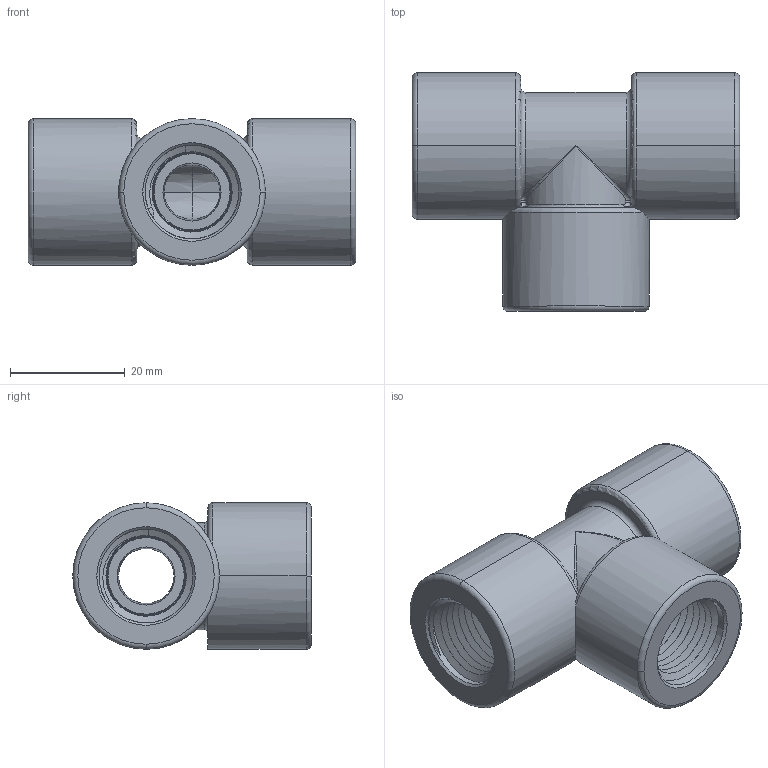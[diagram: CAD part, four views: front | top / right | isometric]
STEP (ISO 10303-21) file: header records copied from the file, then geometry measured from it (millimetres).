
FILE_DESCRIPTION(/* description */ ('Alibre Inc.'),/* implementation_level */ '2;1');
FILE_NAME(/* name */ 'export0',/* time_stamp */ '2019-09-16T09:46:32-04:00',/* author */ (''),/* organization */ (''),/* preprocessor_version */ 'ST-DEVELOPER v17',/* originating_system */ 'Alibre',/* authorisation */ '');
FILE_SCHEMA (('CONFIG_CONTROL_DESIGN'));
Length unit declared in the file: inch
Products named in the file (1): 200-62464-1000C
Bounding box: 57 x 41.5 x 25.5 mm (x, y, z)
Volume: 23771.7 mm3; surface area: 11774.9 mm2
Topology: 1 solids, 1 shells, 171 faces, 454 edges, 279 vertices
Faces by surface type: cone 77, bspline 49, cylinder 17, plane 14, torus 13, revolution 1
Entity records: 45839 total; most frequent: CARTESIAN_POINT 42598, ORIENTED_EDGE 892, EDGE_CURVE 446, DIRECTION 316, VERTEX_POINT 279, B_SPLINE_CURVE_WITH_KNOTS 265, EDGE_LOOP 177, FACE_BOUND 177
